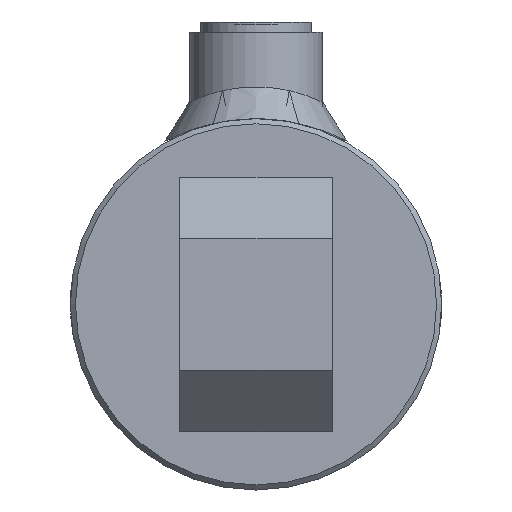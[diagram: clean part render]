
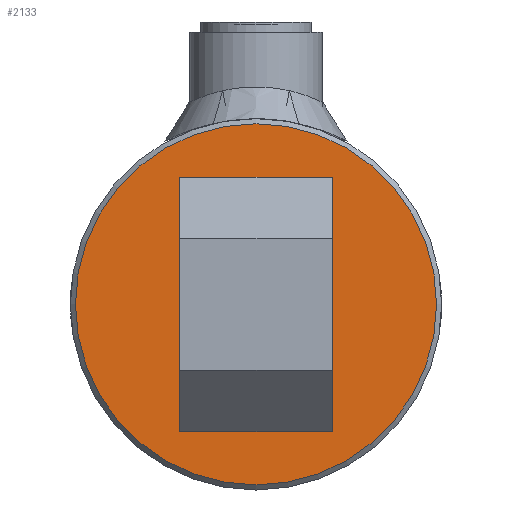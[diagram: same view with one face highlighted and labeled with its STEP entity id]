
A CAD part, left-side view. The second image highlights one B-rep face of the part: STEP entity #2133.
In plain terms, the highlighted planar face has unit normal (-1, 0, 0).
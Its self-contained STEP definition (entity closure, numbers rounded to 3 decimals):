
#2133 = ADVANCED_FACE( '', ( #5352 ), #5353, .T. );
#5352 = FACE_OUTER_BOUND( '', #6689, .T. );
#5353 = PLANE( '', #6690 );
#6689 = EDGE_LOOP( '', ( #7309 ) );
#6690 = AXIS2_PLACEMENT_3D( '', #7310, #7311, #7312 );
#7309 = ORIENTED_EDGE( '', *, *, #8192, .T. );
#7310 = CARTESIAN_POINT( '', ( -12., 0., 0. ) );
#7311 = DIRECTION( '', ( -1., 0., 0. ) );
#7312 = DIRECTION( '', ( 0., -1., 0. ) );
#8192 = EDGE_CURVE( '', #9901, #9901, #9902, .T. );
#9901 = VERTEX_POINT( '', #10821 );
#9902 = CIRCLE( '', #10822, 35.5 );
#10821 = CARTESIAN_POINT( '', ( -12., -35.5, 0. ) );
#10822 = AXIS2_PLACEMENT_3D( '', #10999, #11000, #11001 );
#10999 = CARTESIAN_POINT( '', ( -12., 0., 0. ) );
#11000 = DIRECTION( '', ( -1., 0., 0. ) );
#11001 = DIRECTION( '', ( 0., -1., 0. ) );
